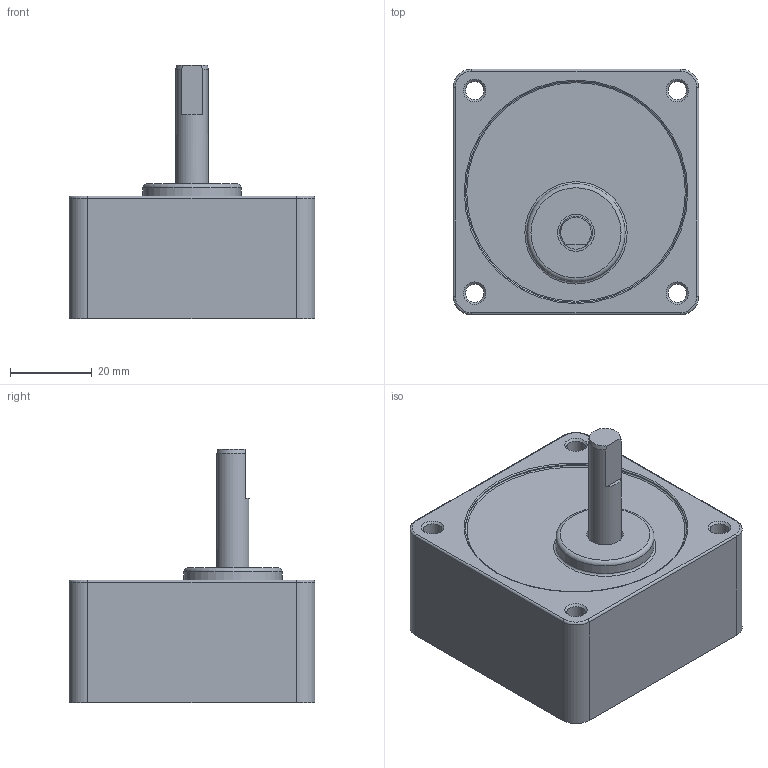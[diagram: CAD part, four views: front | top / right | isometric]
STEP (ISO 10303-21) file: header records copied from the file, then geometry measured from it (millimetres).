
FILE_DESCRIPTION((''),'2;1');
FILE_NAME('D:\STP파일\GEAR HEAD\6W\S6DA3~18.stp','2013-05-20T19:04:53',('leebh'),(''),'Autodesk Inventor 2011','Autodesk Inventor 2011','');
FILE_SCHEMA(('AUTOMOTIVE_DESIGN { 1 0 10303 214 1 1 1 1 }'));
Length unit declared in the file: millimetre
Products named in the file (1): S9I90G-T1
Bounding box: 60 x 60 x 62 mm (x, y, z)
Volume: 95654.5 mm3; surface area: 17930.2 mm2
Topology: 1 solids, 1 shells, 45 faces, 95 edges, 58 vertices
Faces by surface type: cylinder 18, plane 14, torus 8, cone 5
Full cylindrical faces by diameter (mm): 4.5 x4, 6 x1, 8 x1, 9 x1, 24 x1, 53.997 x1, 54 x1
Entity records: 1152 total; most frequent: DIRECTION 216, CARTESIAN_POINT 183, ORIENTED_EDGE 152, AXIS2_PLACEMENT_3D 96, EDGE_LOOP 77, EDGE_CURVE 76, VERTEX_POINT 57, CIRCLE 50
